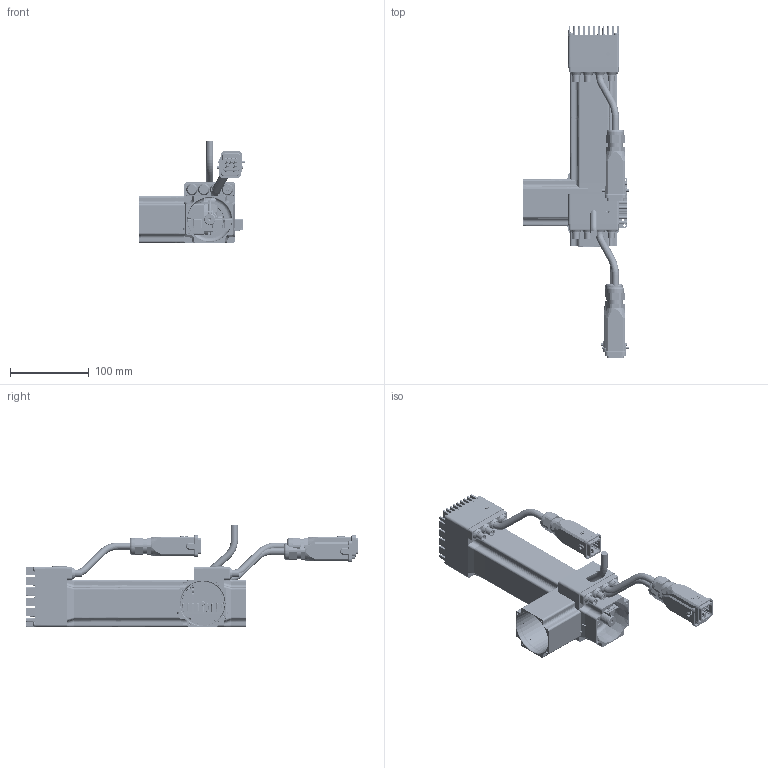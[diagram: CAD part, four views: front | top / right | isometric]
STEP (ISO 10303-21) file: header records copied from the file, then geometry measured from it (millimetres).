
FILE_DESCRIPTION( ( 'Unknown' ), '1' );
FILE_NAME( 'K:/Q0A164.stp', 'Unknown', ( 'Unknown' ), ( 'Unknown' ), 'PSStep 14.0', 'Unknown', ' ' );
FILE_SCHEMA( ( 'AUTOMOTIVE_DESIGN { 1 0 10303 214 1 1 1 1 }' ) );
Length unit declared in the file: millimetre
Products named in the file (53): 003108020078; 003755102006; Assem1; 007117000802; 005117001543; 005117001544; 005603001500; CAVO D9 N13A64; 005117000974; 005117000976; 003755100998; 003251021030; 005007000200; CUSC_15_32_9_6002_ZZ; CUSC_10_26_8_6000_ZZ; A-Ela  15; anello-elastico-chiuso  32; Anello OR 1,78 D47,37-2187-oa0; Anello OR 1,78 D47,37-2187-oa1; Anello OR 1,78 D47,37-2187-oa2; Anello OR 1,78 D25,12-2100-oa3; Vite a brugola testa cil 8,8 -  M  3 x 18; Vite a brugola testa cil 8,8 -  M  3 x 18-oa4; Vite a brugola testa cil 8,8 -  M  3 x 18-oa5; Vite a brugola testa cil 8,8 -  M  3 x 18-oa6; VECST-8112 M  3 x 12; Grano senza punta M  2.5 x 4; 003016000056; LI-PIA   3x3 x 15; 003155001086; Vite a brugola testa cil 8,8 -  M  3 x 35; Vite a brugola testa cil 8,8 -  M  3 x 35-oa7; Vite a brugola testa cil 8,8 -  M  3 x 35-oa8; Vite a brugola testa cil 8,8 -  M  3 x 35-oa9; 007803003640; 007055000370; LI-PIA   5x5 x 25; 003303000048; 003175000137; 005009000080_26_0,3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
Bounding box: 133.45 x 421.62 x 129.64 mm (x, y, z)
Volume: 817895.9 mm3; surface area: 543188.8 mm2
Topology: 122 solids, 126 shells, 13897 faces, 35473 edges, 22223 vertices
Faces by surface type: plane 6960, cylinder 4743, bspline 851, sphere 552, cone 401, torus 340, extrusion 50
Full cylindrical faces by diameter (mm): 0.226 x5, 0.296 x5, 0.95 x5, 1 x64, 1.05 x5, 1.6 x40, 1.7 x4, 1.75 x40, 1.8 x5, 2 x5, 2.013 x8, 2.025 x5, 2.25 x5, 2.4 x12, 2.459 x31, 2.5 x21, 2.6 x35, 2.8 x40, 2.9 x3, 3 x47, 3.2 x130, 3.4 x40, 3.5 x24, 4 x2, 4.134 x2, 4.2 x2, 4.333 x3, 4.5 x2, 4.75 x15, 5 x2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
Entity records: 182777 total; most frequent: CARTESIAN_POINT 43364, DIRECTION 22453, ORIENTED_EDGE 21032, EDGE_CURVE 10516, AXIS2_PLACEMENT_3D 8338, VERTEX_POINT 6715, VECTOR 5777, LINE 5767
